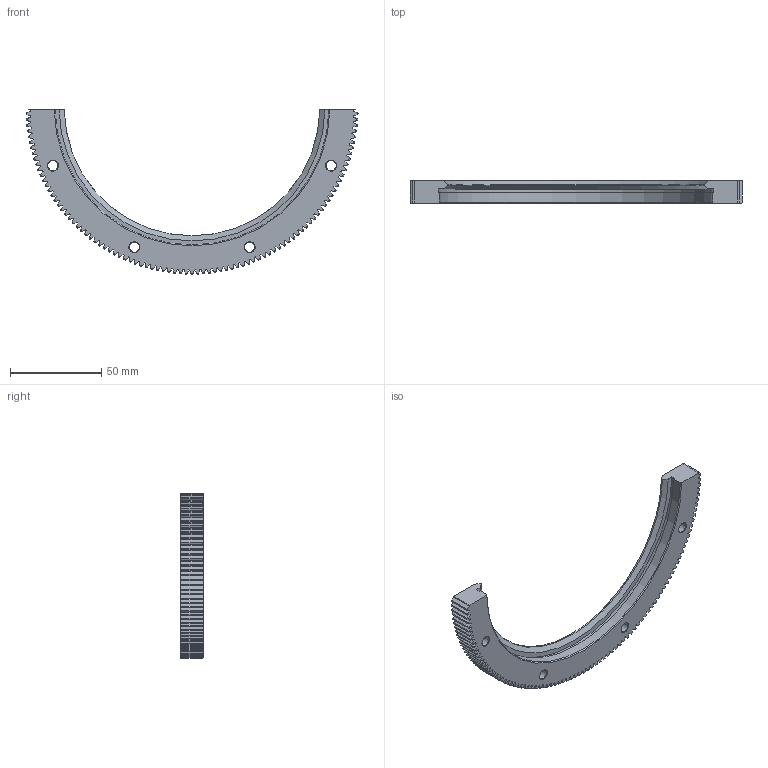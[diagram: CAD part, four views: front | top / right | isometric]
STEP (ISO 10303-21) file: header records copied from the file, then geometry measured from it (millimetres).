
FILE_DESCRIPTION( ( 'STEP AP203' ), '1' );
FILE_NAME( 'p:/temp/worker_109/temp/exporttempdir_4740_1012_dde1I/format_0/RIS 182 R180 P.stp', '2021-09-01T01:41:27', ( 'License CC BY-ND 4.0' ), ( 'CADENAS' ), ' ', 'PARTsolutions', ' ' );
FILE_SCHEMA( ( 'CONFIG_CONTROL_DESIGN' ) );
Length unit declared in the file: millimetre
Products named in the file (1): _RIS 182 R180 P
Bounding box: 181.92 x 12.25 x 90 mm (x, y, z)
Volume: 48273.3 mm3; surface area: 20464.2 mm2
Topology: 1 solids, 1 shells, 566 faces, 1676 edges, 1116 vertices
Faces by surface type: plane 370, cylinder 99, cone 96, torus 1
Full cylindrical faces by diameter (mm): 5.5 x4, 10 x4
Entity records: 19002 total; most frequent: CARTESIAN_POINT 3917, ORIENTED_EDGE 3328, DIRECTION 2908, EDGE_CURVE 1664, LINE 1182, VECTOR 1182, VERTEX_POINT 1116, AXIS2_PLACEMENT_3D 863
